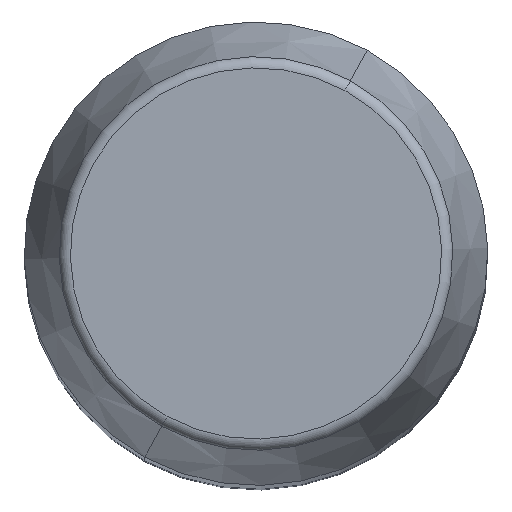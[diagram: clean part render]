
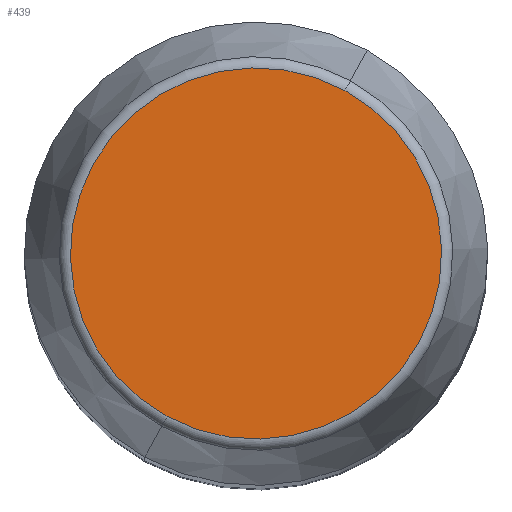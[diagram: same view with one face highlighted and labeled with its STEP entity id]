
A CAD part, top view. The second image highlights one B-rep face of the part: STEP entity #439.
In plain terms, the highlighted planar face has unit normal (0, 0, 1).
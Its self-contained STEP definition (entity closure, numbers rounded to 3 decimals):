
#391=CARTESIAN_POINT('Vertex',(-7.679,-14.056,250.)) ;
#394=CARTESIAN_POINT('Axis2P3D Location',(0.,0.,250.)) ;
#398=CARTESIAN_POINT('Vertex',(7.679,14.056,250.)) ;
#418=CARTESIAN_POINT('Axis2P3D Location',(0.,0.,250.)) ;
#430=CARTESIAN_POINT('Axis2P3D Location',(0.,16.017,250.)) ;
#395=DIRECTION('Axis2P3D Direction',(0.,0.,-1.)) ;
#419=DIRECTION('Axis2P3D Direction',(0.,0.,-1.)) ;
#431=DIRECTION('Axis2P3D Direction',(0.,0.,-1.)) ;
#432=DIRECTION('Axis2P3D XDirection',(1.,0.,0.)) ;
#396=AXIS2_PLACEMENT_3D('Circle Axis2P3D',#394,#395,$) ;
#420=AXIS2_PLACEMENT_3D('Circle Axis2P3D',#418,#419,$) ;
#433=AXIS2_PLACEMENT_3D('Plane Axis2P3D',#430,#431,#432) ;
#436=ORIENTED_EDGE('',*,*,#422,.F.) ;
#437=ORIENTED_EDGE('',*,*,#400,.F.) ;
#439=ADVANCED_FACE('PartBody',(#438),#434,.F.) ;
#397=CIRCLE('generated circle',#396,16.017) ;
#421=CIRCLE('generated circle',#420,16.017) ;
#400=EDGE_CURVE('',#392,#399,#397,.T.) ;
#422=EDGE_CURVE('',#399,#392,#421,.T.) ;
#435=EDGE_LOOP('',(#436,#437)) ;
#438=FACE_OUTER_BOUND('',#435,.T.) ;
#434=PLANE('Plane',#433) ;
#392=VERTEX_POINT('',#391) ;
#399=VERTEX_POINT('',#398) ;
